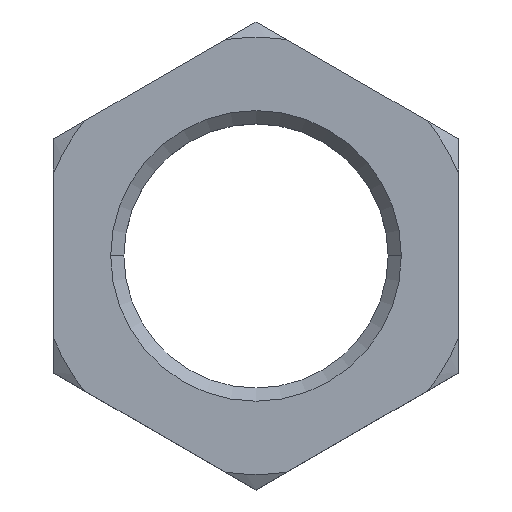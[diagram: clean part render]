
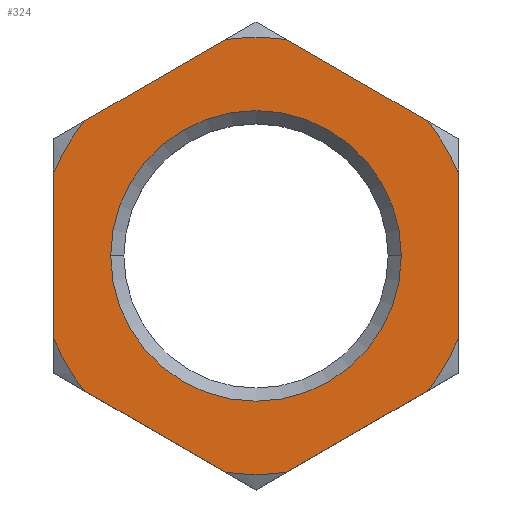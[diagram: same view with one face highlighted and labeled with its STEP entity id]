
A CAD part, top view. The second image highlights one B-rep face of the part: STEP entity #324.
In plain terms, the highlighted planar face has unit normal (0, 0, 1).
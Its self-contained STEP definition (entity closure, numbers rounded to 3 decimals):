
#4 = DIRECTION ( 'NONE',  ( 0., 0., 1. ) ) ;
#9 = ORIENTED_EDGE ( 'NONE', *, *, #242, .T. ) ;
#10 = DIRECTION ( 'NONE',  ( 0., -1., 0. ) ) ;
#18 = VECTOR ( 'NONE', #46, 1000. ) ;
#26 = CIRCLE ( 'NONE', #705, 16.5 ) ;
#46 = DIRECTION ( 'NONE',  ( 0.866, -0.5, 0. ) ) ;
#55 = DIRECTION ( 'NONE',  ( -0.866, 0.5, 0. ) ) ;
#68 = CARTESIAN_POINT ( 'NONE',  ( -23., -9.297, 6.95 ) ) ;
#73 = DIRECTION ( 'NONE',  ( 0., 0., -1. ) ) ;
#80 = CIRCLE ( 'NONE', #709, 24.808 ) ;
#116 = CARTESIAN_POINT ( 'NONE',  ( 16.5, 0., 6.95 ) ) ;
#152 = ORIENTED_EDGE ( 'NONE', *, *, #179, .F. ) ;
#158 = DIRECTION ( 'NONE',  ( -1., 0., 0. ) ) ;
#162 = LINE ( 'NONE', #437, #219 ) ;
#174 = ORIENTED_EDGE ( 'NONE', *, *, #624, .T. ) ;
#179 = EDGE_CURVE ( 'NONE', #764, #532, #80, .T. ) ;
#181 = DIRECTION ( 'NONE',  ( -1., 0., 0. ) ) ;
#216 = DIRECTION ( 'NONE',  ( 0., 0., -1. ) ) ;
#219 = VECTOR ( 'NONE', #10, 1000. ) ;
#222 = EDGE_CURVE ( 'NONE', #423, #422, #794, .T. ) ;
#242 = EDGE_CURVE ( 'NONE', #810, #409, #642, .T. ) ;
#248 = DIRECTION ( 'NONE',  ( -0.866, -0.5, 0. ) ) ;
#254 = VERTEX_POINT ( 'NONE', #302 ) ;
#261 = VERTEX_POINT ( 'NONE', #68 ) ;
#263 = ORIENTED_EDGE ( 'NONE', *, *, #222, .F. ) ;
#264 = DIRECTION ( 'NONE',  ( -1., 0., 0. ) ) ;
#285 = DIRECTION ( 'NONE',  ( 0., 0., -1. ) ) ;
#289 = ORIENTED_EDGE ( 'NONE', *, *, #850, .F. ) ;
#298 = LINE ( 'NONE', #381, #583 ) ;
#302 = CARTESIAN_POINT ( 'NONE',  ( 3.448, -24.567, 6.95 ) ) ;
#323 = AXIS2_PLACEMENT_3D ( 'NONE', #675, #594, #158 ) ;
#324 = ADVANCED_FACE ( 'NONE', ( #659, #671 ), #439, .T. ) ;
#325 = EDGE_CURVE ( 'NONE', #409, #810, #26, .T. ) ;
#327 = CARTESIAN_POINT ( 'NONE',  ( 0., -26.558, 6.95 ) ) ;
#332 = VERTEX_POINT ( 'NONE', #530 ) ;
#334 = EDGE_CURVE ( 'NONE', #764, #847, #775, .T. ) ;
#356 = CIRCLE ( 'NONE', #897, 24.808 ) ;
#360 = ORIENTED_EDGE ( 'NONE', *, *, #548, .T. ) ;
#363 = CARTESIAN_POINT ( 'NONE',  ( 0., 0., 6.95 ) ) ;
#368 = VERTEX_POINT ( 'NONE', #479 ) ;
#381 = CARTESIAN_POINT ( 'NONE',  ( 23., 13.279, 6.95 ) ) ;
#390 = DIRECTION ( 'NONE',  ( 0., 0., -1. ) ) ;
#395 = ORIENTED_EDGE ( 'NONE', *, *, #746, .F. ) ;
#409 = VERTEX_POINT ( 'NONE', #888 ) ;
#414 = DIRECTION ( 'NONE',  ( -1., 0., 0. ) ) ;
#421 = CARTESIAN_POINT ( 'NONE',  ( 23., 9.297, 6.95 ) ) ;
#422 = VERTEX_POINT ( 'NONE', #421 ) ;
#423 = VERTEX_POINT ( 'NONE', #474 ) ;
#437 = CARTESIAN_POINT ( 'NONE',  ( -23., 13.279, 6.95 ) ) ;
#439 = PLANE ( 'NONE',  #478 ) ;
#466 = AXIS2_PLACEMENT_3D ( 'NONE', #363, #216, #647 ) ;
#467 = CARTESIAN_POINT ( 'NONE',  ( 0., 0., 6.95 ) ) ;
#474 = CARTESIAN_POINT ( 'NONE',  ( 19.552, 15.27, 6.95 ) ) ;
#478 = AXIS2_PLACEMENT_3D ( 'NONE', #787, #4, #503 ) ;
#479 = CARTESIAN_POINT ( 'NONE',  ( 19.552, -15.27, 6.95 ) ) ;
#480 = DIRECTION ( 'NONE',  ( 0., 0., -1. ) ) ;
#490 = EDGE_CURVE ( 'NONE', #423, #532, #298, .T. ) ;
#501 = DIRECTION ( 'NONE',  ( -1., 0., 0. ) ) ;
#503 = DIRECTION ( 'NONE',  ( 1., 0., 0. ) ) ;
#508 = VECTOR ( 'NONE', #248, 1000. ) ;
#513 = CARTESIAN_POINT ( 'NONE',  ( 0., 0., 6.95 ) ) ;
#518 = AXIS2_PLACEMENT_3D ( 'NONE', #513, #73, #570 ) ;
#521 = EDGE_LOOP ( 'NONE', ( #289, #174, #263, #796, #152, #569, #800, #360, #395, #686, #699, #609 ) ) ;
#527 = CARTESIAN_POINT ( 'NONE',  ( 3.448, 24.567, 6.95 ) ) ;
#530 = CARTESIAN_POINT ( 'NONE',  ( -19.552, -15.27, 6.95 ) ) ;
#531 = LINE ( 'NONE', #753, #717 ) ;
#532 = VERTEX_POINT ( 'NONE', #527 ) ;
#536 = LINE ( 'NONE', #890, #18 ) ;
#546 = CARTESIAN_POINT ( 'NONE',  ( -3.448, 24.567, 6.95 ) ) ;
#548 = EDGE_CURVE ( 'NONE', #726, #261, #162, .T. ) ;
#549 = DIRECTION ( 'NONE',  ( 0., 0., -1. ) ) ;
#560 = AXIS2_PLACEMENT_3D ( 'NONE', #894, #480, #264 ) ;
#569 = ORIENTED_EDGE ( 'NONE', *, *, #334, .T. ) ;
#570 = DIRECTION ( 'NONE',  ( 1., 0., 0. ) ) ;
#571 = EDGE_CURVE ( 'NONE', #726, #847, #632, .T. ) ;
#583 = VECTOR ( 'NONE', #55, 1000. ) ;
#586 = VERTEX_POINT ( 'NONE', #834 ) ;
#594 = DIRECTION ( 'NONE',  ( 0., 0., -1. ) ) ;
#600 = CARTESIAN_POINT ( 'NONE',  ( 0., 26.558, 6.95 ) ) ;
#606 = AXIS2_PLACEMENT_3D ( 'NONE', #467, #549, #181 ) ;
#609 = ORIENTED_EDGE ( 'NONE', *, *, #696, .T. ) ;
#624 = EDGE_CURVE ( 'NONE', #586, #422, #531, .T. ) ;
#632 = CIRCLE ( 'NONE', #323, 24.808 ) ;
#642 = CIRCLE ( 'NONE', #518, 16.5 ) ;
#647 = DIRECTION ( 'NONE',  ( -1., 0., 0. ) ) ;
#652 = EDGE_LOOP ( 'NONE', ( #9, #683 ) ) ;
#659 = FACE_BOUND ( 'NONE', #652, .T. ) ;
#668 = CARTESIAN_POINT ( 'NONE',  ( 0., 0., 6.95 ) ) ;
#671 = FACE_OUTER_BOUND ( 'NONE', #521, .T. ) ;
#672 = DIRECTION ( 'NONE',  ( 1., 0., 0. ) ) ;
#675 = CARTESIAN_POINT ( 'NONE',  ( 0., 0., 6.95 ) ) ;
#683 = ORIENTED_EDGE ( 'NONE', *, *, #325, .T. ) ;
#686 = ORIENTED_EDGE ( 'NONE', *, *, #758, .T. ) ;
#696 = EDGE_CURVE ( 'NONE', #254, #368, #792, .T. ) ;
#699 = ORIENTED_EDGE ( 'NONE', *, *, #793, .F. ) ;
#705 = AXIS2_PLACEMENT_3D ( 'NONE', #668, #390, #672 ) ;
#709 = AXIS2_PLACEMENT_3D ( 'NONE', #790, #285, #501 ) ;
#710 = VERTEX_POINT ( 'NONE', #729 ) ;
#717 = VECTOR ( 'NONE', #789, 1000. ) ;
#726 = VERTEX_POINT ( 'NONE', #752 ) ;
#727 = DIRECTION ( 'NONE',  ( 0.866, 0.5, 0. ) ) ;
#729 = CARTESIAN_POINT ( 'NONE',  ( -3.448, -24.567, 6.95 ) ) ;
#746 = EDGE_CURVE ( 'NONE', #332, #261, #356, .T. ) ;
#752 = CARTESIAN_POINT ( 'NONE',  ( -23., 9.297, 6.95 ) ) ;
#753 = CARTESIAN_POINT ( 'NONE',  ( 23., -13.279, 6.95 ) ) ;
#758 = EDGE_CURVE ( 'NONE', #332, #710, #536, .T. ) ;
#764 = VERTEX_POINT ( 'NONE', #546 ) ;
#766 = CARTESIAN_POINT ( 'NONE',  ( 0., 0., 6.95 ) ) ;
#775 = LINE ( 'NONE', #600, #508 ) ;
#782 = CIRCLE ( 'NONE', #606, 24.808 ) ;
#787 = CARTESIAN_POINT ( 'NONE',  ( 0., 0., 6.95 ) ) ;
#789 = DIRECTION ( 'NONE',  ( 0., 1., 0. ) ) ;
#790 = CARTESIAN_POINT ( 'NONE',  ( 0., 0., 6.95 ) ) ;
#792 = LINE ( 'NONE', #327, #855 ) ;
#793 = EDGE_CURVE ( 'NONE', #254, #710, #892, .T. ) ;
#794 = CIRCLE ( 'NONE', #466, 24.808 ) ;
#796 = ORIENTED_EDGE ( 'NONE', *, *, #490, .T. ) ;
#800 = ORIENTED_EDGE ( 'NONE', *, *, #571, .F. ) ;
#810 = VERTEX_POINT ( 'NONE', #116 ) ;
#834 = CARTESIAN_POINT ( 'NONE',  ( 23., -9.297, 6.95 ) ) ;
#836 = CARTESIAN_POINT ( 'NONE',  ( -19.552, 15.27, 6.95 ) ) ;
#847 = VERTEX_POINT ( 'NONE', #836 ) ;
#850 = EDGE_CURVE ( 'NONE', #586, #368, #782, .T. ) ;
#855 = VECTOR ( 'NONE', #727, 1000. ) ;
#888 = CARTESIAN_POINT ( 'NONE',  ( -16.5, 0., 6.95 ) ) ;
#889 = DIRECTION ( 'NONE',  ( 0., 0., -1. ) ) ;
#890 = CARTESIAN_POINT ( 'NONE',  ( -23., -13.279, 6.95 ) ) ;
#892 = CIRCLE ( 'NONE', #560, 24.808 ) ;
#894 = CARTESIAN_POINT ( 'NONE',  ( 0., 0., 6.95 ) ) ;
#897 = AXIS2_PLACEMENT_3D ( 'NONE', #766, #889, #414 ) ;
